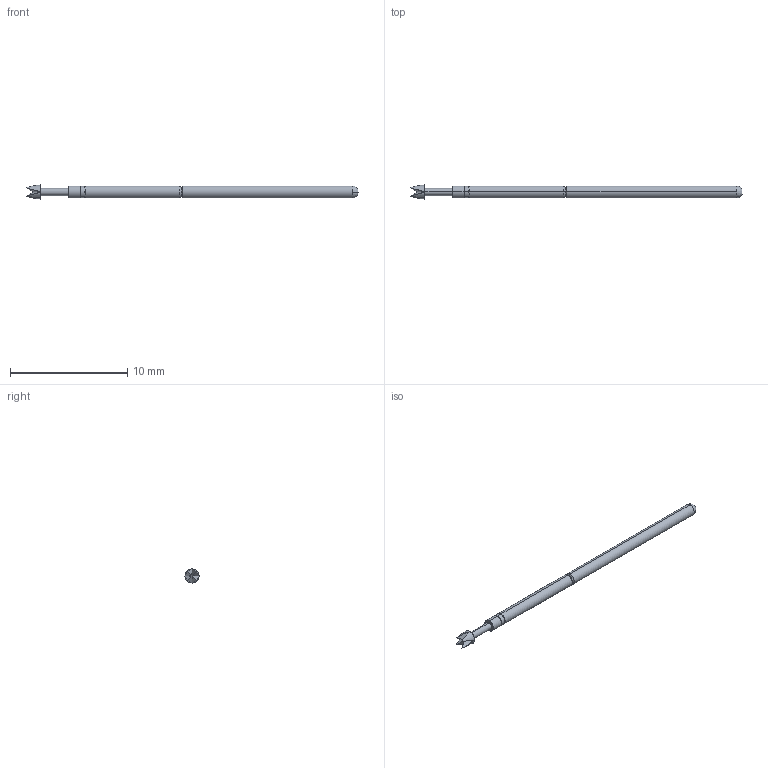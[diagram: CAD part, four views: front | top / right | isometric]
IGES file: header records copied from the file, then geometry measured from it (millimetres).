
Start section: SolidWorks IGES file using analytic representation for surfaces
Global section: file name: Y:\HomeCPG\probe solid model mockups\Solidworks models\Non-catalog IGES files\SPL-01L-039 IGES files\SPL-01L-039 RECD.IGS; native system: SolidWorks 2006 by SolidWorks Corporation; preprocessor: SolidWorks 2006 by SolidWorks Corporation; author: tsakatani; date: 080131.110839; units: inch
Bounding box: 28.27 x 1.19 x 1.19 mm (x, y, z)
Surface area: 90.2 mm2 (no closed solid volume)
Topology: 0 solids, 0 shells, 33 faces, 226 edges, 226 vertices
Faces by surface type: revolution 18, bspline 15
